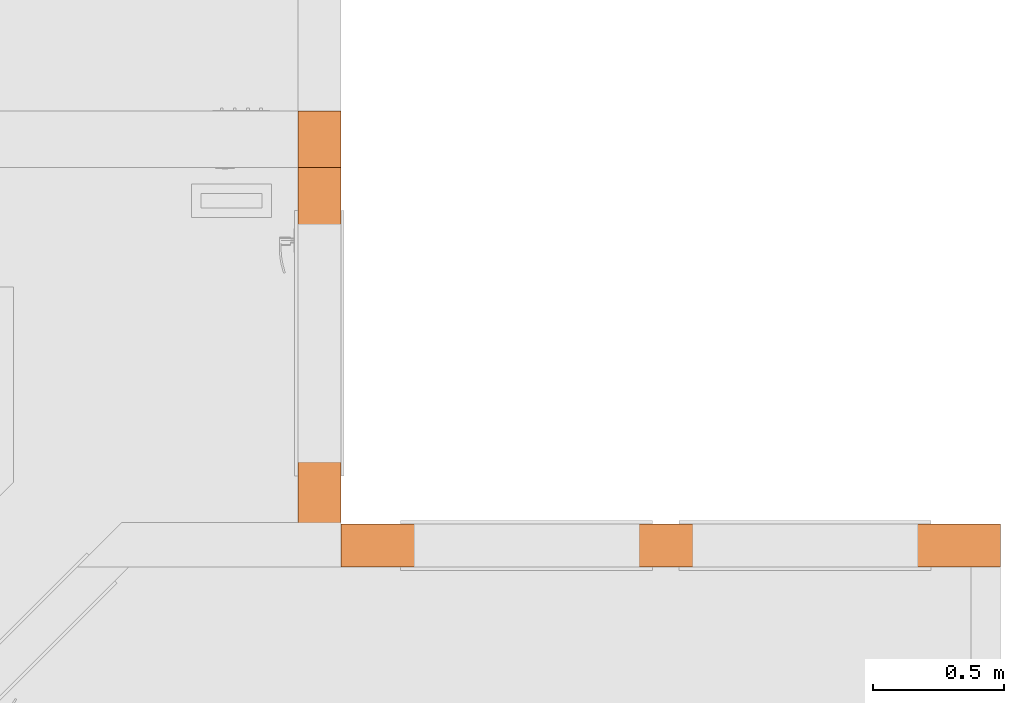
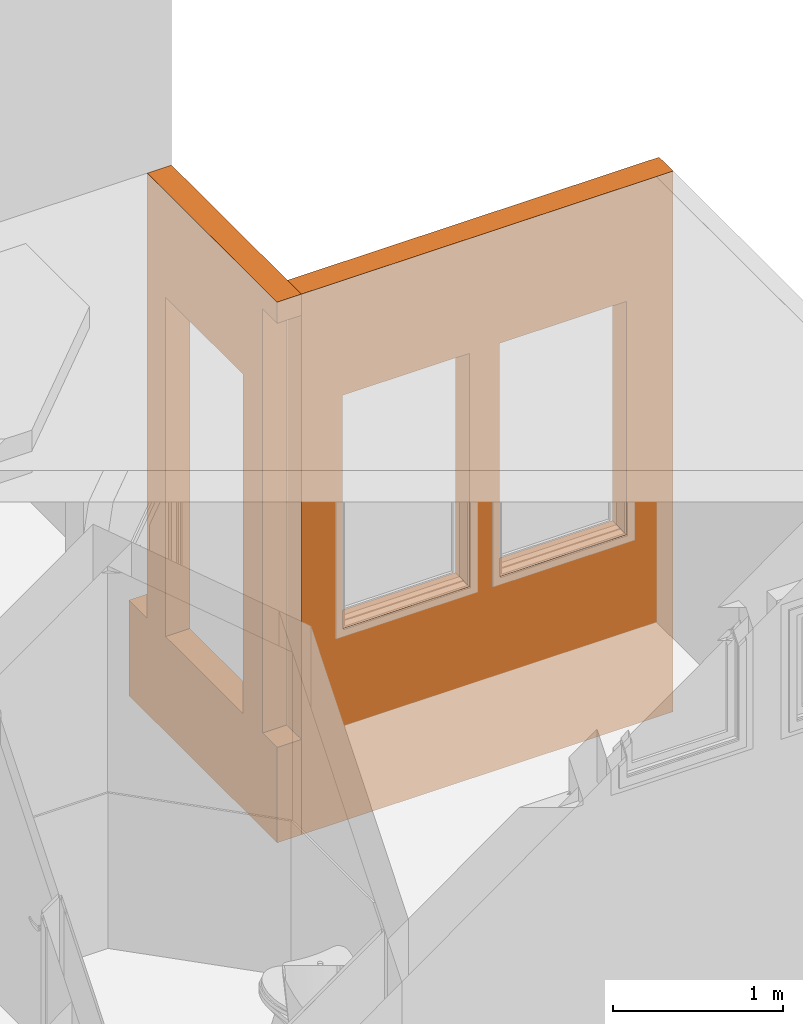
# One storey, part 101 of 103: 2 proxies.
"""IFC2X3 building model written with IfcOpenShell, lengths in inches."""

import ifcopenshell
import ifcopenshell.guid

model = None  # the IFC model being written
_history = None  # IfcOwnerHistory: only IFC2X3 demands one
_inside = {}  # id of a spatial element -> (the spatial element, [elements in it])
_under = {}  # id of a project, library or spatial element -> (it, [spatial elements below it])
_declared = {}  # id of a project -> (the project, [libraries it declares])
_typed = {}  # id of a type object -> (the type object, [elements of that type])
_made_of = {}  # id of a material, layer set ... -> (it, [elements and type objects made of it])


def new_model(schema):
    """Start an empty IFC model of exactly this schema.

    Asked for "IFC4X3", IfcOpenShell would pick the latest addendum, in which some entities
    have other attributes; the version numbers below select the first issue.
    IFC2X3 requires an IfcOwnerHistory on every rooted entity: one is made here for all.
    """
    global model, _history
    if schema == "IFC4X3":
        model = ifcopenshell.file(schema_version=(4, 3, 0, 0))
    else:
        model = ifcopenshell.file(schema=schema)
    _inside.clear()
    _under.clear()
    _declared.clear()
    _typed.clear()
    _made_of.clear()
    _history = None
    if model.schema == "IFC2X3":
        org = make("IfcOrganization", Name="unknown")
        user = make(
            "IfcPersonAndOrganization",
            ThePerson=make("IfcPerson", FamilyName="unknown"),
            TheOrganization=org,
        )
        app = make(
            "IfcApplication",
            ApplicationDeveloper=org,
            Version="unknown",
            ApplicationFullName="unknown",
            ApplicationIdentifier="unknown",
        )
        _history = make(
            "IfcOwnerHistory",
            OwningUser=user,
            OwningApplication=app,
            ChangeAction="ADDED",
            CreationDate=0,
        )
    return model


def make(cls, **values):
    """One entity of the class cls with the attributes given. An attribute that is None is left unset."""
    return model.create_entity(
        cls, **{name: value for name, value in values.items() if value is not None}
    )


def entity(cls, *values):
    """Any entity or typed value of the class cls, its attributes in the order of the schema. None: left unset."""
    e = model.create_entity(cls)
    for i, value in enumerate(values):
        if value is not None:
            e[i] = value
    return e


def rooted(cls, **values):
    """An entity with a GlobalId (a new one), such as an element, a storey or a relation."""
    return make(cls, GlobalId=ifcopenshell.guid.new(), OwnerHistory=_history, **values)


def si_unit(unit_type, name, prefix=None):
    """IfcSIUnit, for example si_unit("LENGTHUNIT", "METRE", prefix="MILLI")."""
    return make("IfcSIUnit", UnitType=unit_type, Prefix=prefix, Name=name)


def converted_unit(unit_type, name, factor, base, dimensions=None, offset=None):
    """IfcConversionBasedUnit, such as the inch: factor (a typed value) times the base unit."""
    return make(
        "IfcConversionBasedUnit"
        if offset is None
        else "IfcConversionBasedUnitWithOffset",
        ConversionOffset=offset,
        Dimensions=None
        if dimensions is None
        else entity("IfcDimensionalExponents", *dimensions),
        UnitType=unit_type,
        Name=name,
        ConversionFactor=make(
            "IfcMeasureWithUnit", ValueComponent=factor, UnitComponent=base
        ),
    )


def derived_unit(unit_type, elements):
    """IfcDerivedUnit: a product of units, each with its exponent."""
    return make(
        "IfcDerivedUnit",
        Elements=[
            make("IfcDerivedUnitElement", Unit=unit, Exponent=power)
            for unit, power in elements
        ],
        UnitType=unit_type,
    )


def money_unit(currency):
    """IfcMonetaryUnit."""
    return make("IfcMonetaryUnit", Currency=currency)


def assignment(units):
    """IfcUnitAssignment: the units of a project."""
    return None if units is None else make("IfcUnitAssignment", Units=units)


def point(xyz):
    """IfcCartesianPoint."""
    return None if xyz is None else make("IfcCartesianPoint", Coordinates=xyz)


def direction(xyz):
    """IfcDirection."""
    return None if xyz is None else make("IfcDirection", DirectionRatios=xyz)


def frame(location, z_axis=None, x_axis=None):
    """IfcAxis2Placement3D, a coordinate frame: its origin and axes. An axis left out is left unset."""
    return make(
        "IfcAxis2Placement3D",
        Location=point(location),
        Axis=direction(z_axis),
        RefDirection=direction(x_axis),
    )


def origin_with_axes():
    """The frame at (0, 0, 0) with the z axis (0, 0, 1) and the x axis (1, 0, 0) written out."""
    return frame((0.0, 0.0, 0.0), z_axis=(0.0, 0.0, 1.0), x_axis=(1.0, 0.0, 0.0))


def place(relative_to, where):
    """IfcLocalPlacement: puts the frame where relative to a parent placement (None: the world)."""
    return make(
        "IfcLocalPlacement", PlacementRelTo=relative_to, RelativePlacement=where
    )


def context(
    kind, dimensions, precision=None, world=None, true_north=None, identifier=None
):
    """IfcGeometricRepresentationContext, for example the 3D "Model" context."""
    return make(
        "IfcGeometricRepresentationContext",
        ContextIdentifier=identifier,
        ContextType=kind,
        CoordinateSpaceDimension=dimensions,
        Precision=precision,
        WorldCoordinateSystem=world,
        TrueNorth=true_north,
    )


def subcontext(parent, identifier, kind, view, scale=None):
    """IfcGeometricRepresentationSubContext, for example "Body" below "Model"."""
    return make(
        "IfcGeometricRepresentationSubContext",
        ContextIdentifier=identifier,
        ContextType=kind,
        ParentContext=parent,
        TargetScale=scale,
        TargetView=view,
    )


def project(units=None, contexts=None):
    """IfcProject with its units and contexts."""
    return rooted(
        "IfcProject",
        Name="project",
        RepresentationContexts=contexts,
        UnitsInContext=assignment(units),
    )


def spatial(cls, under=None, at=None, **own):
    """A site, building, storey or space (cls), placed at a placement, below another one or the project."""
    s = rooted(cls, ObjectPlacement=at, **own)
    if under is not None:
        _under.setdefault(under.id(), (under, []))[1].append(s)
    return s


def faces_of(points, faces, orient=None, outer=None):
    """IfcFace entities. A face is a list of loops; a loop is a list of indices into points, from 0.

    orient and outer hold one flag for each loop. By default every Orientation is true, the
    first loop of a face is its IfcFaceOuterBound and the others are IfcFaceBound.
    """
    made = []
    for i, loops in enumerate(faces):
        bounds = []
        for j, loop in enumerate(loops):
            is_outer = j == 0 if outer is None else outer[i][j]
            bounds.append(
                make(
                    "IfcFaceOuterBound" if is_outer else "IfcFaceBound",
                    Bound=make("IfcPolyLoop", Polygon=[points[k] for k in loop]),
                    Orientation=True if orient is None else orient[i][j],
                )
            )
        made.append(make("IfcFace", Bounds=bounds))
    return made


def faceted_brep(points, faces, orient=None, outer=None, voids=None):
    """IfcFacetedBrep: a solid bounded by flat faces; with voids (closed shells), ...WithVoids."""
    shared = [point(p) for p in points]
    hull = make("IfcClosedShell", CfsFaces=faces_of(shared, faces, orient, outer))
    if voids is None:
        return make("IfcFacetedBrep", Outer=hull)
    return make(
        "IfcFacetedBrepWithVoids",
        Outer=hull,
        Voids=[
            make(cls, CfsFaces=faces_of(shared, fs, o, b)) for cls, fs, o, b in voids
        ],
    )


def shape(context_of_items, identifier, shape_type, items):
    """IfcShapeRepresentation: the items that make up one representation, for example the "Body"."""
    return make(
        "IfcShapeRepresentation",
        ContextOfItems=context_of_items,
        RepresentationIdentifier=identifier,
        RepresentationType=shape_type,
        Items=items,
    )


def material(Name=None, Category=None):
    """IfcMaterial."""
    return make("IfcMaterial", Name=Name, Category=Category)


def made_of(thing, what):
    """Note that an element or type object is made of a material, layer set ...; save() writes the relation."""
    if what is not None:
        _made_of.setdefault(what.id(), (what, []))[1].append(thing)
    return thing


def type_object(cls, material=None, **own):
    """A type object (cls), such as IfcWallType, which elements share."""
    return made_of(rooted(cls, **own), material)


def element(
    cls,
    number,
    at=None,
    inside=None,
    cuts=None,
    type_object=None,
    material=None,
    context=None,
    identifier="Body",
    shape_type=None,
    held_by="IfcProductDefinitionShape",
    body=None,
    shapes=None,
    **own,
):
    """One element of the class cls, such as IfcWall. Its Tag is "e" and its number.

    at: its placement. inside: the storey or other place that contains it. cuts: it is an
    opening in that element (IfcRelVoidsElement). A single representation is given by context,
    identifier, shape_type and body (its items); several are given by shapes. held_by: the class
    of the entity that holds the representations. save() writes the other relations.
    """
    e = rooted(cls, Tag="e%d" % number, ObjectPlacement=at, **own)
    if body is not None:
        shapes = [shape(context, identifier, shape_type, body)]
    if shapes is not None:
        e.Representation = make(held_by, Representations=shapes)
    if inside is not None:
        _inside.setdefault(inside.id(), (inside, []))[1].append(e)
    if cuts is not None:
        rooted(
            "IfcRelVoidsElement", RelatingBuildingElement=cuts, RelatedOpeningElement=e
        )
    if type_object is not None:
        _typed.setdefault(type_object.id(), (type_object, []))[1].append(e)
    return made_of(e, material)


def aggregate(whole, parts):
    """IfcRelAggregates: a whole, such as a stair, and the parts it consists of."""
    return rooted("IfcRelAggregates", RelatingObject=whole, RelatedObjects=parts)


def save(model, path):
    """Write the relations noted so far, then the file.

    IfcRelAggregates (storeys below a building ...), IfcRelContainedInSpatialStructure (elements
    in a storey), IfcRelDefinesByType, IfcRelAssociatesMaterial and IfcRelDeclares: one each for
    every whole, place, type object, material and project.
    """
    for whole, parts in _under.values():
        aggregate(whole, parts)
    for where, things in _inside.values():
        rooted(
            "IfcRelContainedInSpatialStructure",
            RelatedElements=things,
            RelatingStructure=where,
        )
    for kind, things in _typed.values():
        rooted("IfcRelDefinesByType", RelatedObjects=things, RelatingType=kind)
    for what, things in _made_of.values():
        rooted("IfcRelAssociatesMaterial", RelatedObjects=things, RelatingMaterial=what)
    for by, libraries in _declared.values():
        rooted("IfcRelDeclares", RelatingContext=by, RelatedDefinitions=libraries)
    model.write(path)


model = new_model("IFC2X3")

# Units and contexts
model_context = context("Model", 3, precision=0.00039370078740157, world=origin_with_axes(), true_north=direction((0.0, 1.0)))
plan_context = context("Plan", 3, precision=0.00039370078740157, world=origin_with_axes(), true_north=direction((0.0, 1.0)))
body_context = subcontext(model_context, "Body", "Model", "MODEL_VIEW")
ifc_project = project(units=[converted_unit("LENGTHUNIT", "INCH", entity("IfcPositiveLengthMeasure", 0.0254), si_unit("LENGTHUNIT", "METRE"), dimensions=[1, 0, 0, 0, 0, 0, 0]), converted_unit("AREAUNIT", "SQUARE_FOOT", entity("IfcPositiveLengthMeasure", 0.09290304), si_unit("AREAUNIT", "SQUARE_METRE"), dimensions=[2, 0, 0, 0, 0, 0, 0]), si_unit("PLANEANGLEUNIT", "RADIAN"), si_unit("SOLIDANGLEUNIT", "STERADIAN"), money_unit("USD"), converted_unit("TIMEUNIT", "Year", entity("IfcTimeMeasure", 31557600.0), si_unit("TIMEUNIT", "SECOND"), dimensions=[0, 0, 1, 0, 0, 0, 0]), si_unit("MASSUNIT", "GRAM", prefix="KILO"), si_unit("THERMODYNAMICTEMPERATUREUNIT", "DEGREE_CELSIUS"), si_unit("LUMINOUSINTENSITYUNIT", "LUMEN"), si_unit("ENERGYUNIT", "JOULE", prefix="MEGA"), derived_unit("SPECIFICHEATCAPACITYUNIT", [(si_unit("ENERGYUNIT", "JOULE"), 1), (si_unit("MASSUNIT", "GRAM", prefix="KILO"), -1), (si_unit("THERMODYNAMICTEMPERATUREUNIT", "KELVIN"), -1)])], contexts=[model_context, plan_context])

# Site, building, storey
site_placement = place(None, origin_with_axes())
site = spatial("IfcSite", under=ifc_project, at=site_placement, Name="Site", CompositionType="ELEMENT")
building_placement = place(site_placement, origin_with_axes())
building = spatial("IfcBuilding", under=site, at=building_placement, Name="Building", CompositionType="ELEMENT")
storey_placement = place(building_placement, frame((0.0, 0.0, 127.9999999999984), z_axis=(0.0, 0.0, 1.0), x_axis=(1.0, 0.0, 0.0)))
storey = spatial("IfcBuildingStorey", under=building, at=storey_placement, Name="Second Floor", CompositionType="ELEMENT", Elevation=128.0)

# Proxies
ifc_material = material(Name="Generic - Structural")
building_element_proxy_type = type_object("IfcBuildingElementProxyType", Name="Generic - Structural 6 1/2\"", PredefinedType="NOTDEFINED")
proxy_1_placement = place(storey_placement, frame((421.4999999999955, 132.2499999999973, -26.99999999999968), z_axis=(0.0, 0.0, 1.0), x_axis=(0.0, 1.0, 0.0)))
element("IfcBuildingElementProxy", 1, at=proxy_1_placement, inside=storey, type_object=building_element_proxy_type, material=ifc_material, Name="SW - 093", context=body_context, shape_type="Brep", body=[
    faceted_brep([(6.749999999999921, 0.0, 146.9999999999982), (0.0, 0.0, 146.9999999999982), (0.0, 0.0, 152.9999999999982), (60.24999999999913, 0.0, 152.9999999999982), (60.24999999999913, 0.0, 26.99999999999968), (68.74999999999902, 0.0, 26.99999999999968), (68.74999999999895, 0.0, 0.0), (0.0, 0.0, 0.0), (0.0, 0.0, 26.99999999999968), (6.749999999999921, 0.0, 26.99999999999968), (15.75000000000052, 0.0, 26.99999999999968), (51.7500000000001, 0.0, 26.99999999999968), (51.7500000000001, 0.0, 122.9999999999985), (15.75000000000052, 0.0, 122.9999999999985), (6.749999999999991, -6.499999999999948, 146.9999999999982), (0.0, -6.500000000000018, 146.9999999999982), (0.0, -6.499999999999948, 152.9999999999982), (60.2499999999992, -6.499999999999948, 152.9999999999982), (60.2499999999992, -6.499999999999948, 26.99999999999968), (68.74999999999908, -6.499999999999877, 26.99999999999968), (68.74999999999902, -6.499999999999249, 0.0), (0.0, -6.499999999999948, 0.0), (0.0, -6.500000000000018, 26.99999999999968), (6.749999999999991, -6.499999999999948, 26.99999999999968), (15.75000000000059, -6.500000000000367, 26.99999999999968), (51.75000000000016, -6.500000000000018, 26.99999999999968), (51.75000000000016, -6.500000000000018, 122.9999999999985), (15.75000000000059, -6.500000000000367, 122.9999999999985)], [[[0, 1, 2, 3, 4, 5, 6, 7, 8, 9], [10, 11, 12, 13]], [[14, 15, 1, 0]], [[1, 15, 16, 2]], [[17, 3, 2, 16]], [[3, 17, 18, 4]], [[18, 19, 5, 4]], [[5, 19, 20, 6]], [[20, 21, 7, 6]], [[22, 8, 7, 21]], [[22, 23, 9, 8]], [[23, 14, 0, 9]], [[24, 25, 11, 10]], [[25, 26, 12, 11]], [[26, 27, 13, 12]], [[27, 24, 10, 13]], [[22, 21, 20, 19, 18, 17, 16, 15, 14, 23], [24, 27, 26, 25]]]),
])
proxy_2_placement = place(storey_placement, frame((427.9999999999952, 132.2499999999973, -26.99999999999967), z_axis=(0.0, 0.0, 1.0), x_axis=(1.0, 0.0, 0.0)))
element("IfcBuildingElementProxy", 2, at=proxy_2_placement, inside=storey, type_object=building_element_proxy_type, material=ifc_material, Name="SW - 080", context=body_context, shape_type="Brep", body=[
    faceted_brep([(0.0, 0.0, 152.9999999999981), (0.0, 0.0, 0.0), (99.49999999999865, 0.0, 0.0), (99.49999999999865, 0.0, 152.9999999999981), (10.99999999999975, 0.0, 120.4999999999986), (44.99999999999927, 0.0, 120.4999999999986), (44.99999999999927, 0.0, 54.49999999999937), (10.99999999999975, 0.0, 54.49999999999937), (52.99999999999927, 0.0, 54.49999999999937), (52.99999999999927, 0.0, 120.4999999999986), (86.99999999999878, 0.0, 120.4999999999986), (86.99999999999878, 0.0, 54.49999999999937), (0.0, 6.49999999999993, 152.9999999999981), (0.0, 6.499999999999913, 0.0), (99.49999999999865, 6.50000000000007, 0.0), (99.49999999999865, 6.50000000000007, 152.9999999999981), (44.99999999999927, 6.5, 120.4999999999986), (10.99999999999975, 6.499999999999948, 120.4999999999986), (44.99999999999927, 6.499999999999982, 54.49999999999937), (10.99999999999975, 6.49999999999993, 54.49999999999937), (52.99999999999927, 6.500000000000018, 54.49999999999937), (52.99999999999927, 6.500000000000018, 120.4999999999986), (86.99999999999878, 6.500000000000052, 120.4999999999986), (86.99999999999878, 6.500000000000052, 54.49999999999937)], [[[0, 1, 2, 3], [4, 5, 6, 7], [8, 9, 10, 11]], [[12, 13, 1, 0]], [[1, 13, 14, 2]], [[2, 14, 15, 3]], [[12, 0, 3, 15]], [[16, 5, 4, 17]], [[18, 6, 5, 16]], [[19, 7, 6, 18]], [[17, 4, 7, 19]], [[20, 21, 9, 8]], [[21, 22, 10, 9]], [[22, 23, 11, 10]], [[23, 20, 8, 11]], [[13, 12, 15, 14], [18, 16, 17, 19], [20, 23, 22, 21]]]),
])

save(model, "model.ifc")
